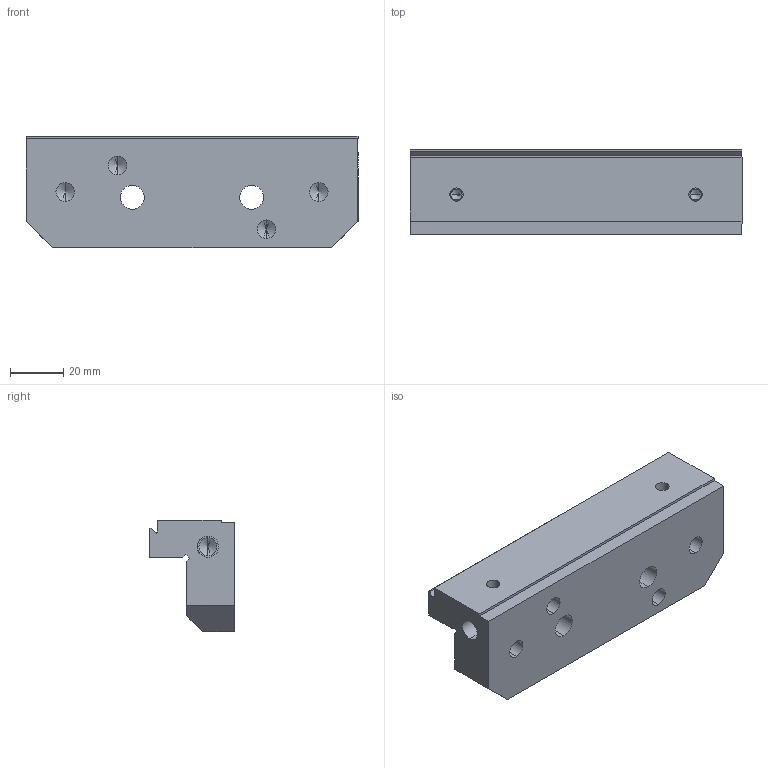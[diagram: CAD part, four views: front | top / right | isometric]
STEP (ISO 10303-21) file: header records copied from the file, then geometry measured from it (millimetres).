
FILE_DESCRIPTION (( 'STEP AP214' ), '1' );
FILE_NAME ('HMVJ-5DS [05-0230 ref].step', '2023-05-02T20:45:58', ( '' ), ( '' ), 'SwSTEP 2.0', 'SolidWorks 2022', '' );
FILE_SCHEMA (( 'AUTOMOTIVE_DESIGN' ));
Length unit declared in the file: millimetre
Products named in the file (1): HMVJ-5DS [05-0230 ref]
Bounding box: 125 x 32 x 42 mm (x, y, z)
Volume: 103560.7 mm3; surface area: 24291.4 mm2
Topology: 1 solids, 1 shells, 527 faces, 1339 edges, 876 vertices
Faces by surface type: plane 273, bspline 191, cylinder 43, cone 20
Entity records: 29521 total; most frequent: CARTESIAN_POINT 17019, ORIENTED_EDGE 2638, DIRECTION 1691, EDGE_CURVE 1319, VERTEX_POINT 876, VECTOR 841, LINE 841, EDGE_LOOP 617
